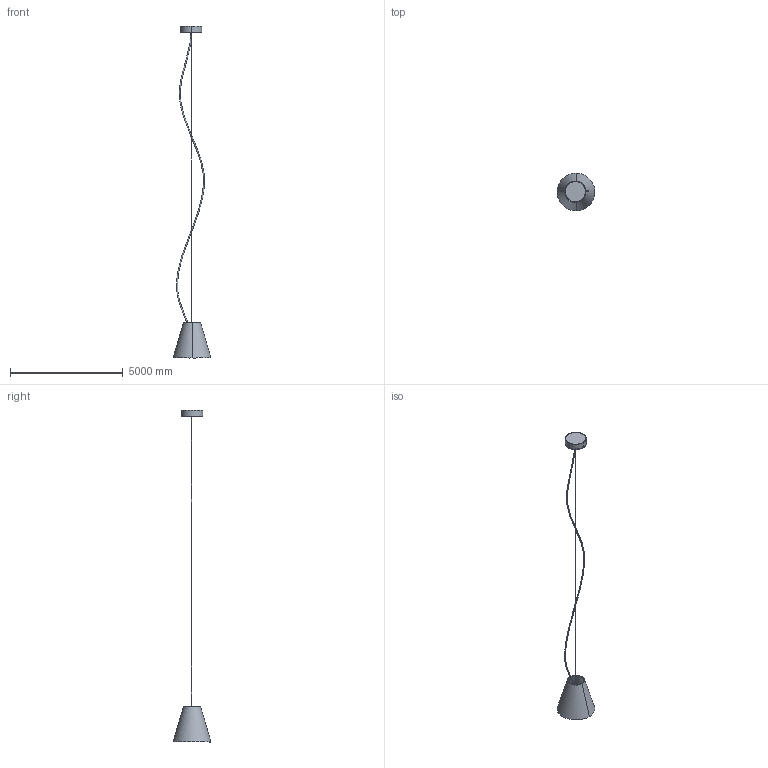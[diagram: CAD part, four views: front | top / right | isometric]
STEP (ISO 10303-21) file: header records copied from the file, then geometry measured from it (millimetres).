
FILE_DESCRIPTION(/* description */ (''),/* implementation_level */ '2;1');
FILE_NAME(/* name */ '1104',/* time_stamp */ '2022-01-18T14:41:57+01:00',/* author */ (''),/* organization */ (''),/* preprocessor_version */ 'ST-DEVELOPER v16.5',/* originating_system */ '',/* authorisation */ '');
FILE_SCHEMA (('CONFIG_CONTROL_DESIGN'));
Length unit declared in the file: centimetre
Products named in the file (1): Document
Bounding box: 1667.49 x 1670 x 14690.97 mm (x, y, z)
Volume: 274787419.1 mm3; surface area: 20091453.6 mm2
Topology: 15 solids, 15 shells, 91 faces, 181 edges, 115 vertices
Faces by surface type: cylinder 36, plane 31, bspline 24
Entity records: 3821 total; most frequent: CARTESIAN_POINT 2517, ORIENTED_EDGE 334, EDGE_CURVE 167, VERTEX_POINT 113, EDGE_LOOP 108, ADVANCED_FACE 91, FACE_OUTER_BOUND 91, DIRECTION 73
